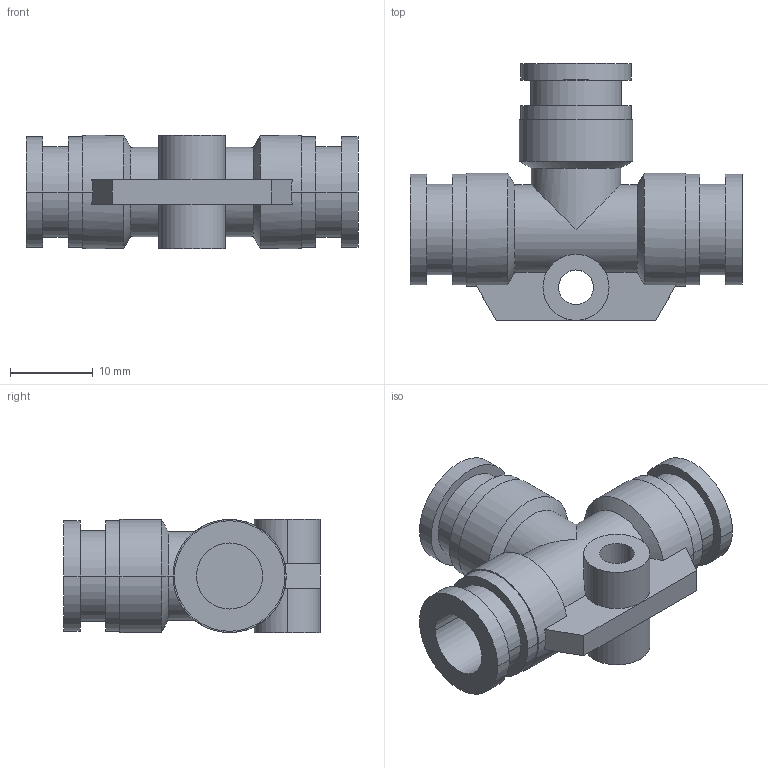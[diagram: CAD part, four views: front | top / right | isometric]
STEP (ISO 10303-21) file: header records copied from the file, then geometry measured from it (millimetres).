
FILE_DESCRIPTION( ( '' ), '1' );
FILE_NAME( 'G:/SMC狟婥/KQ2T08-00A.stp', '2023-03-07T03:24:02', ( '' ), ( '' ), ' ', ' ', ' ' );
FILE_SCHEMA( ( 'CONFIG_CONTROL_DESIGN' ) );
Length unit declared in the file: millimetre
Products named in the file (1): 1
Bounding box: 40.2 x 31.1 x 13.7 mm (x, y, z)
Volume: 4818.4 mm3; surface area: 4691.8 mm2
Topology: 1 solids, 1 shells, 70 faces, 158 edges, 102 vertices
Faces by surface type: cylinder 40, plane 24, cone 6
Entity records: 2106 total; most frequent: CARTESIAN_POINT 413, DIRECTION 384, ORIENTED_EDGE 316, AXIS2_PLACEMENT_3D 161, EDGE_CURVE 158, VERTEX_POINT 102, EDGE_LOOP 84, CIRCLE 82
